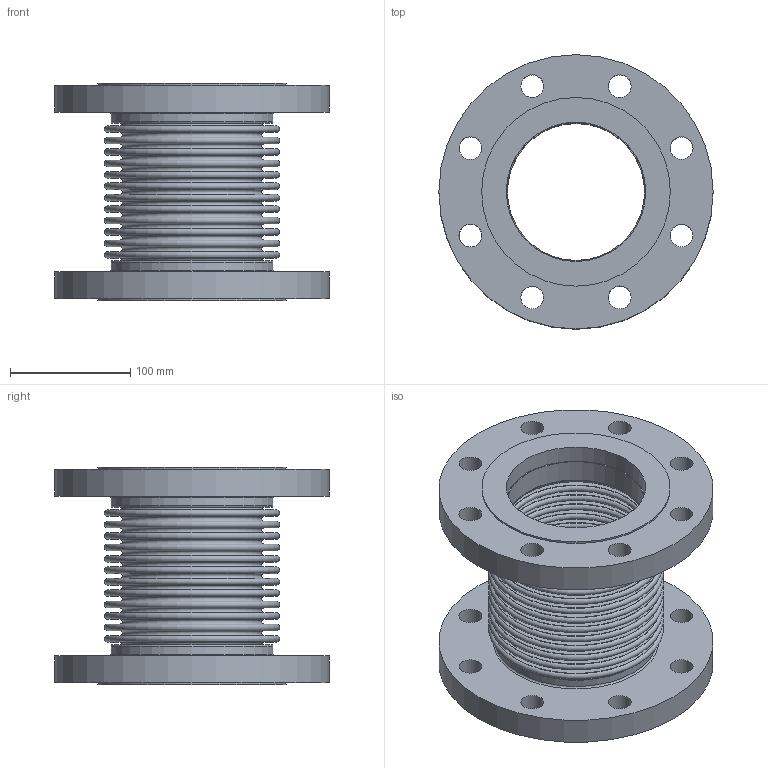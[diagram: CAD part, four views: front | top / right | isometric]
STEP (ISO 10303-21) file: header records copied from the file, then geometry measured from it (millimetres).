
FILE_DESCRIPTION(/* description */ ('EXPANSION JOINT,SINGLE, FLANGED ENDS,4 INCH NOMINAL','CAx-IF Rec.Pracs.---Representation and Presentation of Product Manufacturing Information (PMI)---4.0---2014-10-13'),/* implementation_level */ '2;1');
FILE_NAME(/* name */ 'US-04-12-150L-FLANGED ENDS.stp',/* time_stamp */ '2026-07-31T16:56:05-05:00',/* author */ ('Guadalupe'),/* organization */ (''),/* preprocessor_version */ 'ST-DEVELOPER v20.1',/* originating_system */ 'Autodesk Inventor 2026',/* authorisation */ '');
FILE_SCHEMA (('AP242_MANAGED_MODEL_BASED_3D_ENGINEERING_MIM_LF { 1 0 10303 442 2 1 4 }'));
Length unit declared in the file: inch
Products named in the file (3): 04-150L; 04-150L-02; 04-150L-01
Assembly tree (3 placements, depth 2):
  04-150L
    04-150L-02  x2
    04-150L-01
Bounding box: 228.6 x 228.6 x 180.85 mm (x, y, z)
Volume: 1500198.9 mm3; surface area: 578086.6 mm2
Topology: 5 solids, 5 shells, 144 faces, 246 edges, 164 vertices
Faces by surface type: plane 62, torus 54, cylinder 28
Full cylindrical faces by diameter (mm): 19.05 x16, 114.3 x2, 115.824 x2, 116.078 x2, 134.874 x2, 157.226 x2, 228.6 x2
Entity records: 3294 total; most frequent: DIRECTION 682, CARTESIAN_POINT 489, ORIENTED_EDGE 408, AXIS2_PLACEMENT_3D 333, EDGE_CURVE 204, EDGE_LOOP 200, CIRCLE 188, VERTEX_POINT 136
